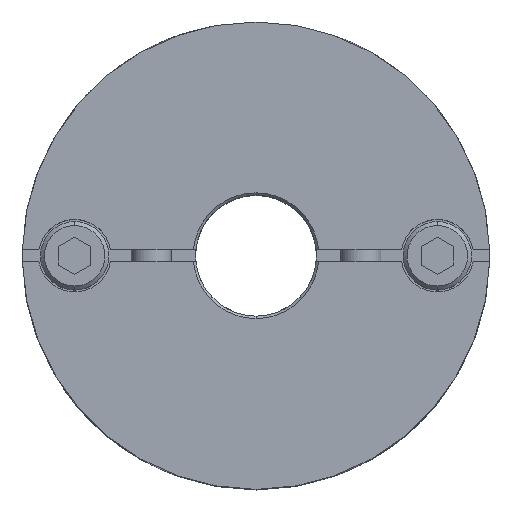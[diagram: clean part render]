
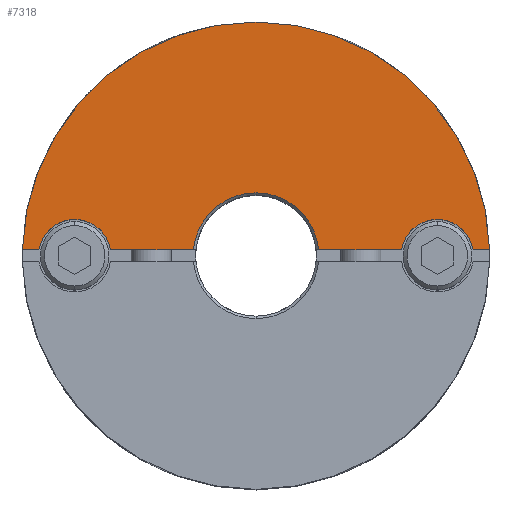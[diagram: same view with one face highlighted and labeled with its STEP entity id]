
A CAD part, top view. The second image highlights one B-rep face of the part: STEP entity #7318.
In plain terms, the highlighted planar face has unit normal (0, 0, 1).
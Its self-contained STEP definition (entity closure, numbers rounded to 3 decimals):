
#605=CARTESIAN_POINT('',(0.,29.,22.4));
#606=VERTEX_POINT('',#605);
#690=CARTESIAN_POINT('',(-28.99,0.75,22.4));
#691=VERTEX_POINT('',#690);
#698=CARTESIAN_POINT('',(0.0,0.,22.4));
#699=DIRECTION('',(0.0,0.0,-1.0));
#700=DIRECTION('',(0.0,1.0,0.0));
#701=AXIS2_PLACEMENT_3D('',#698,#699,#700);
#702=CIRCLE('',#701,29.0);
#703=EDGE_CURVE('',#691,#606,#702,.T.);
#1021=CARTESIAN_POINT('',(0.,7.8,22.4));
#1022=VERTEX_POINT('',#1021);
#1029=CARTESIAN_POINT('',(-7.764,0.75,22.4));
#1030=VERTEX_POINT('',#1029);
#1031=CARTESIAN_POINT('',(0.0,0.,22.4));
#1032=DIRECTION('',(0.0,0.0,1.0));
#1033=DIRECTION('',(0.0,-1.0,0.0));
#1034=AXIS2_PLACEMENT_3D('',#1031,#1032,#1033);
#1035=CIRCLE('',#1034,7.8);
#1036=EDGE_CURVE('',#1022,#1030,#1035,.T.);
#1099=CARTESIAN_POINT('',(-22.5,4.5,22.4));
#1100=VERTEX_POINT('',#1099);
#1109=CARTESIAN_POINT('',(-26.937,0.75,22.4));
#1110=VERTEX_POINT('',#1109);
#1111=CARTESIAN_POINT('',(-22.5,0.,22.4));
#1112=DIRECTION('',(0.0,0.0,-1.0));
#1113=DIRECTION('',(0.0,1.0,0.0));
#1114=AXIS2_PLACEMENT_3D('',#1111,#1112,#1113);
#1115=CIRCLE('',#1114,4.5);
#1116=EDGE_CURVE('',#1110,#1100,#1115,.T.);
#1183=CARTESIAN_POINT('',(22.5,4.5,22.4));
#1184=VERTEX_POINT('',#1183);
#1193=CARTESIAN_POINT('',(18.063,0.75,22.4));
#1194=VERTEX_POINT('',#1193);
#1195=CARTESIAN_POINT('',(22.5,0.,22.4));
#1196=DIRECTION('',(0.0,0.0,-1.0));
#1197=DIRECTION('',(0.0,1.0,0.0));
#1198=AXIS2_PLACEMENT_3D('',#1195,#1196,#1197);
#1199=CIRCLE('',#1198,4.5);
#1200=EDGE_CURVE('',#1194,#1184,#1199,.T.);
#6994=CARTESIAN_POINT('',(26.937,0.75,22.4));
#6995=VERTEX_POINT('',#6994);
#7002=CARTESIAN_POINT('',(22.5,0.,22.4));
#7003=DIRECTION('',(0.0,0.0,-1.0));
#7004=DIRECTION('',(0.0,1.0,0.0));
#7005=AXIS2_PLACEMENT_3D('',#7002,#7003,#7004);
#7006=CIRCLE('',#7005,4.5);
#7007=EDGE_CURVE('',#1184,#6995,#7006,.T.);
#7060=CARTESIAN_POINT('',(-18.063,0.75,22.4));
#7061=VERTEX_POINT('',#7060);
#7068=CARTESIAN_POINT('',(-22.5,0.,22.4));
#7069=DIRECTION('',(0.0,0.0,-1.0));
#7070=DIRECTION('',(0.0,1.0,0.0));
#7071=AXIS2_PLACEMENT_3D('',#7068,#7069,#7070);
#7072=CIRCLE('',#7071,4.5);
#7073=EDGE_CURVE('',#1100,#7061,#7072,.T.);
#7092=CARTESIAN_POINT('',(28.99,0.75,22.4));
#7093=VERTEX_POINT('',#7092);
#7100=CARTESIAN_POINT('',(26.937,0.75,22.4));
#7101=DIRECTION('',(1.0,0.0,0.0));
#7102=VECTOR('',#7101,2.053);
#7103=LINE('',#7100,#7102);
#7104=EDGE_CURVE('',#6995,#7093,#7103,.T.);
#7115=CARTESIAN_POINT('',(7.764,0.75,22.4));
#7116=VERTEX_POINT('',#7115);
#7117=CARTESIAN_POINT('',(7.764,0.75,22.4));
#7118=DIRECTION('',(1.0,0.0,0.0));
#7119=VECTOR('',#7118,10.299);
#7120=LINE('',#7117,#7119);
#7121=EDGE_CURVE('',#7116,#1194,#7120,.T.);
#7277=CARTESIAN_POINT('',(0.,2.636,22.4));
#7278=DIRECTION('',(0.0,0.0,1.0));
#7279=DIRECTION('',(0.0,1.0,0.0));
#7280=AXIS2_PLACEMENT_3D('',#7277,#7278,#7279);
#7281=PLANE('',#7280);
#7282=ORIENTED_EDGE('',*,*,#1200,.T.);
#7283=ORIENTED_EDGE('',*,*,#7007,.T.);
#7284=ORIENTED_EDGE('',*,*,#7104,.T.);
#7285=CARTESIAN_POINT('',(0.0,0.,22.4));
#7286=DIRECTION('',(0.0,0.0,-1.0));
#7287=DIRECTION('',(0.0,1.0,0.0));
#7288=AXIS2_PLACEMENT_3D('',#7285,#7286,#7287);
#7289=CIRCLE('',#7288,29.0);
#7290=EDGE_CURVE('',#606,#7093,#7289,.T.);
#7291=ORIENTED_EDGE('',*,*,#7290,.F.);
#7292=ORIENTED_EDGE('',*,*,#703,.F.);
#7293=CARTESIAN_POINT('',(-28.99,0.75,22.4));
#7294=DIRECTION('',(1.0,0.0,0.0));
#7295=VECTOR('',#7294,2.053);
#7296=LINE('',#7293,#7295);
#7297=EDGE_CURVE('',#691,#1110,#7296,.T.);
#7298=ORIENTED_EDGE('',*,*,#7297,.T.);
#7299=ORIENTED_EDGE('',*,*,#1116,.T.);
#7300=ORIENTED_EDGE('',*,*,#7073,.T.);
#7301=CARTESIAN_POINT('',(-18.063,0.75,22.4));
#7302=DIRECTION('',(1.0,0.0,0.0));
#7303=VECTOR('',#7302,10.299);
#7304=LINE('',#7301,#7303);
#7305=EDGE_CURVE('',#7061,#1030,#7304,.T.);
#7306=ORIENTED_EDGE('',*,*,#7305,.T.);
#7307=ORIENTED_EDGE('',*,*,#1036,.F.);
#7308=CARTESIAN_POINT('',(0.0,0.,22.4));
#7309=DIRECTION('',(0.0,0.0,1.0));
#7310=DIRECTION('',(0.0,-1.0,0.0));
#7311=AXIS2_PLACEMENT_3D('',#7308,#7309,#7310);
#7312=CIRCLE('',#7311,7.8);
#7313=EDGE_CURVE('',#7116,#1022,#7312,.T.);
#7314=ORIENTED_EDGE('',*,*,#7313,.F.);
#7315=ORIENTED_EDGE('',*,*,#7121,.T.);
#7316=EDGE_LOOP('',(#7282,#7283,#7284,#7291,#7292,#7298,#7299,#7300,#7306,#7307,#7314,#7315));
#7317=FACE_OUTER_BOUND('',#7316,.T.);
#7318=ADVANCED_FACE('',(#7317),#7281,.T.);
